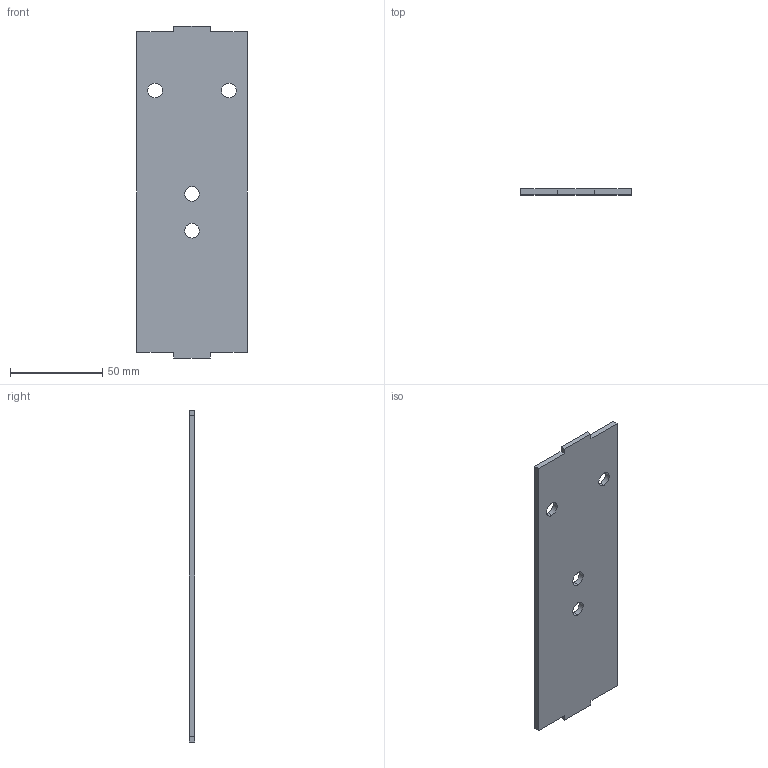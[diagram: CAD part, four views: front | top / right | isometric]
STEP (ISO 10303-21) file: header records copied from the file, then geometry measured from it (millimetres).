
FILE_DESCRIPTION (( 'STEP AP203' ), '1' );
FILE_NAME ('Structure support renfort.STEP', '2025-09-18T11:54:23', ( '' ), ( '' ), 'SwSTEP 2.0', 'SolidWorks 2019', '' );
FILE_SCHEMA (( 'CONFIG_CONTROL_DESIGN' ));
Length unit declared in the file: millimetre
Products named in the file (1): Structure support renfort
Bounding box: 60 x 3 x 180 mm (x, y, z)
Volume: 31076.8 mm3; surface area: 22459.5 mm2
Topology: 1 solids, 1 shells, 22 faces, 60 edges, 40 vertices
Faces by surface type: plane 14, cylinder 8
Entity records: 793 total; most frequent: CARTESIAN_POINT 123, DIRECTION 122, ORIENTED_EDGE 120, EDGE_CURVE 60, LINE 44, VECTOR 44, VERTEX_POINT 40, AXIS2_PLACEMENT_3D 39
